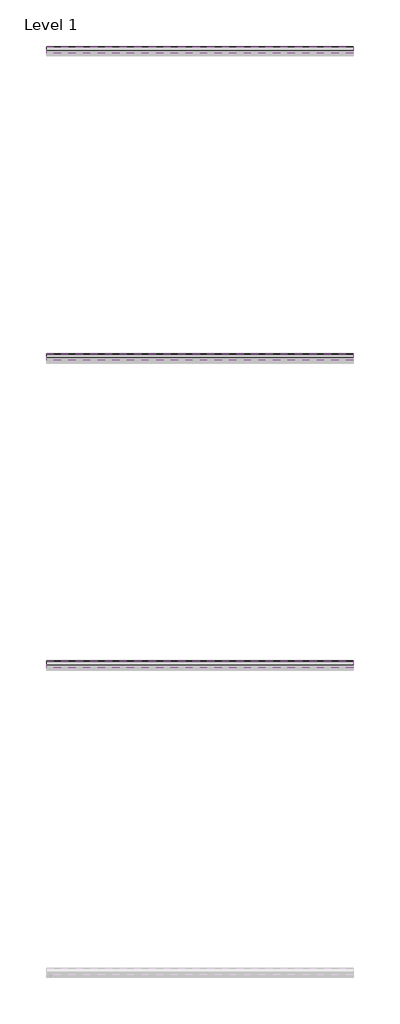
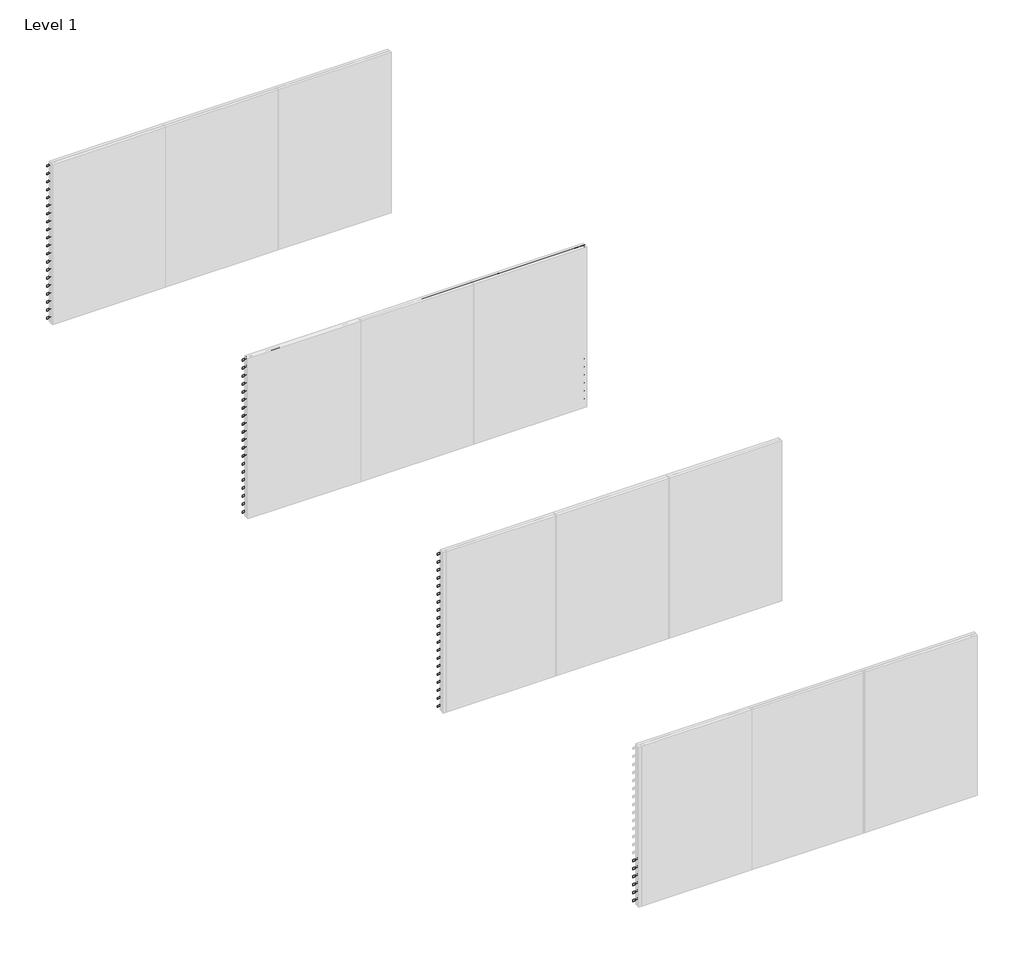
# One storey, part 2 of 2: 66 proxies.
"""IFC4 building model written with IfcOpenShell, lengths in millimetres."""

from ifc_helpers import new_model, si_unit, frame, origin, place, context, project, spatial, polyline, outline, extrude, element, save

model = new_model("IFC4")

# Units and contexts
model_context = context("Model", 3, world=origin())
ifc_project = project(units=[si_unit("LENGTHUNIT", "METRE", prefix="MILLI")], contexts=[model_context])

# Site, building, storey
site = spatial("IfcSite", under=ifc_project)
building = spatial("IfcBuilding", under=site)
storey = spatial("IfcBuildingStorey", under=building, Name="Level 1", Elevation=0.0)

# Proxies
placement = place(None, origin())
element("IfcBuildingElementProxy", 1, Name="Wall Sweeps", at=placement, inside=storey, context=model_context, shape_type="SweptSolid", body=[
    extrude(outline(polyline([(-1995.0, 3000.0), (-1995.0, 2998.0), (-1867.0, 2880.0), (-1867.0, 2845.0), (-1997.0, 2964.84375), (-1997.0, 3000.0), (-1995.0, 3000.0)])), frame((0.0, 0.0, 0.0), z_axis=(1.0, 0.0, 0.0), x_axis=(0.0, 1.0, 0.0)), (0.0, 0.0, 1.0), 6000.0),
])
element("IfcBuildingElementProxy", 2, Name="Wall Sweeps", at=placement, inside=storey, context=model_context, shape_type="SweptSolid", body=[
    extrude(outline(polyline([(-1995.0, 2850.0), (-1995.0, 2848.0), (-1867.0, 2730.0), (-1867.0, 2695.0), (-1997.0, 2814.84375), (-1997.0, 2850.0), (-1995.0, 2850.0)])), frame((0.0, 0.0, 0.0), z_axis=(1.0, 0.0, 0.0), x_axis=(0.0, 1.0, 0.0)), (0.0, 0.0, 1.0), 6000.0),
])
element("IfcBuildingElementProxy", 3, Name="Wall Sweeps", at=placement, inside=storey, context=model_context, shape_type="SweptSolid", body=[
    extrude(outline(polyline([(-1995.0, 2700.0), (-1995.0, 2698.0), (-1867.0, 2580.0), (-1867.0, 2545.0), (-1997.0, 2664.84375), (-1997.0, 2700.0), (-1995.0, 2700.0)])), frame((0.0, 0.0, 0.0), z_axis=(1.0, 0.0, 0.0), x_axis=(0.0, 1.0, 0.0)), (0.0, 0.0, 1.0), 6000.0),
])
element("IfcBuildingElementProxy", 4, Name="Wall Sweeps", at=placement, inside=storey, context=model_context, shape_type="SweptSolid", body=[
    extrude(outline(polyline([(-1995.0, 2550.0), (-1995.0, 2548.0), (-1867.0, 2430.0), (-1867.0, 2395.0), (-1997.0, 2514.84375), (-1997.0, 2550.0), (-1995.0, 2550.0)])), frame((0.0, 0.0, 0.0), z_axis=(1.0, 0.0, 0.0), x_axis=(0.0, 1.0, 0.0)), (0.0, 0.0, 1.0), 6000.0),
])
element("IfcBuildingElementProxy", 5, Name="Wall Sweeps", at=placement, inside=storey, context=model_context, shape_type="SweptSolid", body=[
    extrude(outline(polyline([(-1995.0, 2400.0), (-1995.0, 2398.0), (-1867.0, 2280.0), (-1867.0, 2245.0), (-1997.0, 2364.84375), (-1997.0, 2400.0), (-1995.0, 2400.0)])), frame((0.0, 0.0, 0.0), z_axis=(1.0, 0.0, 0.0), x_axis=(0.0, 1.0, 0.0)), (0.0, 0.0, 1.0), 6000.0),
])
element("IfcBuildingElementProxy", 6, Name="Wall Sweeps", at=placement, inside=storey, context=model_context, shape_type="SweptSolid", body=[
    extrude(outline(polyline([(-1995.0, 2250.0), (-1995.0, 2248.0), (-1867.0, 2130.0), (-1867.0, 2095.0), (-1997.0, 2214.84375), (-1997.0, 2250.0), (-1995.0, 2250.0)])), frame((0.0, 0.0, 0.0), z_axis=(1.0, 0.0, 0.0), x_axis=(0.0, 1.0, 0.0)), (0.0, 0.0, 1.0), 6000.0),
])
element("IfcBuildingElementProxy", 7, Name="Wall Sweeps", at=placement, inside=storey, context=model_context, shape_type="SweptSolid", body=[
    extrude(outline(polyline([(-1995.0, 2100.0), (-1995.0, 2098.0), (-1867.0, 1980.0), (-1867.0, 1945.0), (-1997.0, 2064.84375), (-1997.0, 2100.0), (-1995.0, 2100.0)])), frame((0.0, 0.0, 0.0), z_axis=(1.0, 0.0, 0.0), x_axis=(0.0, 1.0, 0.0)), (0.0, 0.0, 1.0), 6000.0),
])
element("IfcBuildingElementProxy", 8, Name="Wall Sweeps", at=placement, inside=storey, context=model_context, shape_type="SweptSolid", body=[
    extrude(outline(polyline([(-1995.0, 1950.0), (-1995.0, 1948.0), (-1867.0, 1830.0), (-1867.0, 1795.0), (-1997.0, 1914.84375), (-1997.0, 1950.0), (-1995.0, 1950.0)])), frame((0.0, 0.0, 0.0), z_axis=(1.0, 0.0, 0.0), x_axis=(0.0, 1.0, 0.0)), (0.0, 0.0, 1.0), 6000.0),
])
element("IfcBuildingElementProxy", 9, Name="Wall Sweeps", at=placement, inside=storey, context=model_context, shape_type="SweptSolid", body=[
    extrude(outline(polyline([(-1995.0, 1800.0), (-1995.0, 1798.0), (-1867.0, 1680.0), (-1867.0, 1645.0), (-1997.0, 1764.84375), (-1997.0, 1800.0), (-1995.0, 1800.0)])), frame((0.0, 0.0, 0.0), z_axis=(1.0, 0.0, 0.0), x_axis=(0.0, 1.0, 0.0)), (0.0, 0.0, 1.0), 6000.0),
])
element("IfcBuildingElementProxy", 10, Name="Wall Sweeps", at=placement, inside=storey, context=model_context, shape_type="SweptSolid", body=[
    extrude(outline(polyline([(-1995.0, 1650.0), (-1995.0, 1648.0), (-1867.0, 1530.0), (-1867.0, 1495.0), (-1997.0, 1614.84375), (-1997.0, 1650.0), (-1995.0, 1650.0)])), frame((0.0, 0.0, 0.0), z_axis=(1.0, 0.0, 0.0), x_axis=(0.0, 1.0, 0.0)), (0.0, 0.0, 1.0), 6000.0),
])
element("IfcBuildingElementProxy", 11, Name="Wall Sweeps", at=placement, inside=storey, context=model_context, shape_type="SweptSolid", body=[
    extrude(outline(polyline([(-1995.0, 1500.0), (-1995.0, 1498.0), (-1867.0, 1380.0), (-1867.0, 1345.0), (-1997.0, 1464.84375), (-1997.0, 1500.0), (-1995.0, 1500.0)])), frame((0.0, 0.0, 0.0), z_axis=(1.0, 0.0, 0.0), x_axis=(0.0, 1.0, 0.0)), (0.0, 0.0, 1.0), 6000.0),
])
element("IfcBuildingElementProxy", 12, Name="Wall Sweeps", at=placement, inside=storey, context=model_context, shape_type="SweptSolid", body=[
    extrude(outline(polyline([(-1995.0, 1350.0), (-1995.0, 1348.0), (-1867.0, 1230.0), (-1867.0, 1195.0), (-1997.0, 1314.84375), (-1997.0, 1350.0), (-1995.0, 1350.0)])), frame((0.0, 0.0, 0.0), z_axis=(1.0, 0.0, 0.0), x_axis=(0.0, 1.0, 0.0)), (0.0, 0.0, 1.0), 6000.0),
])
element("IfcBuildingElementProxy", 13, Name="Wall Sweeps", at=placement, inside=storey, context=model_context, shape_type="SweptSolid", body=[
    extrude(outline(polyline([(-1995.0, 1200.0), (-1995.0, 1198.0), (-1867.0, 1080.0), (-1867.0, 1045.0), (-1997.0, 1164.84375), (-1997.0, 1200.0), (-1995.0, 1200.0)])), frame((0.0, 0.0, 0.0), z_axis=(1.0, 0.0, 0.0), x_axis=(0.0, 1.0, 0.0)), (0.0, 0.0, 1.0), 6000.0),
])
element("IfcBuildingElementProxy", 14, Name="Wall Sweeps", at=placement, inside=storey, context=model_context, shape_type="SweptSolid", body=[
    extrude(outline(polyline([(-1995.0, 1050.0), (-1995.0, 1048.0), (-1867.0, 930.0), (-1867.0, 895.0), (-1997.0, 1014.84375), (-1997.0, 1050.0), (-1995.0, 1050.0)])), frame((0.0, 0.0, 0.0), z_axis=(1.0, 0.0, 0.0), x_axis=(0.0, 1.0, 0.0)), (0.0, 0.0, 1.0), 6000.0),
])
element("IfcBuildingElementProxy", 15, Name="Wall Sweeps", at=placement, inside=storey, context=model_context, shape_type="SweptSolid", body=[
    extrude(outline(polyline([(-1995.0, 900.0), (-1995.0, 898.0), (-1867.0, 780.0), (-1867.0, 745.0), (-1997.0, 864.84375), (-1997.0, 900.0), (-1995.0, 900.0)])), frame((0.0, 0.0, 0.0), z_axis=(1.0, 0.0, 0.0), x_axis=(0.0, 1.0, 0.0)), (0.0, 0.0, 1.0), 6000.0),
])
element("IfcBuildingElementProxy", 16, Name="Wall Sweeps", at=placement, inside=storey, context=model_context, shape_type="SweptSolid", body=[
    extrude(outline(polyline([(-1995.0, 750.0), (-1995.0, 748.0), (-1867.0, 630.0), (-1867.0, 595.0), (-1997.0, 714.84375), (-1997.0, 750.0), (-1995.0, 750.0)])), frame((0.0, 0.0, 0.0), z_axis=(1.0, 0.0, 0.0), x_axis=(0.0, 1.0, 0.0)), (0.0, 0.0, 1.0), 6000.0),
])
element("IfcBuildingElementProxy", 17, Name="Wall Sweeps", at=placement, inside=storey, context=model_context, shape_type="SweptSolid", body=[
    extrude(outline(polyline([(-1995.0, 600.0), (-1995.0, 598.0), (-1867.0, 480.0), (-1867.0, 445.0), (-1997.0, 564.84375), (-1997.0, 600.0), (-1995.0, 600.0)])), frame((0.0, 0.0, 0.0), z_axis=(1.0, 0.0, 0.0), x_axis=(0.0, 1.0, 0.0)), (0.0, 0.0, 1.0), 6000.0),
])
element("IfcBuildingElementProxy", 18, Name="Wall Sweeps", at=placement, inside=storey, context=model_context, shape_type="SweptSolid", body=[
    extrude(outline(polyline([(-1995.0, 450.0), (-1995.0, 448.0), (-1867.0, 330.0), (-1867.0, 295.0), (-1997.0, 414.84375), (-1997.0, 450.0), (-1995.0, 450.0)])), frame((0.0, 0.0, 0.0), z_axis=(1.0, 0.0, 0.0), x_axis=(0.0, 1.0, 0.0)), (0.0, 0.0, 1.0), 6000.0),
])
element("IfcBuildingElementProxy", 19, Name="Wall Sweeps", at=placement, inside=storey, context=model_context, shape_type="SweptSolid", body=[
    extrude(outline(polyline([(-1995.0, 300.0), (-1995.0, 298.0), (-1867.0, 180.0), (-1867.0, 145.0), (-1997.0, 264.84375), (-1997.0, 300.0), (-1995.0, 300.0)])), frame((0.0, 0.0, 0.0), z_axis=(1.0, 0.0, 0.0), x_axis=(0.0, 1.0, 0.0)), (0.0, 0.0, 1.0), 6000.0),
])
element("IfcBuildingElementProxy", 20, Name="Wall Sweeps", at=placement, inside=storey, context=model_context, shape_type="SweptSolid", body=[
    extrude(outline(polyline([(-1995.0, 150.0), (-1995.0, 148.0), (-1867.0, 30.0), (-1867.0, -5.0), (-1997.0, 114.84375), (-1997.0, 150.0), (-1995.0, 150.0)])), frame((0.0, 0.0, 0.0), z_axis=(1.0, 0.0, 0.0), x_axis=(0.0, 1.0, 0.0)), (0.0, 0.0, 1.0), 6000.0),
])
element("IfcBuildingElementProxy", 21, Name="Wall Sweeps", at=placement, inside=storey, context=model_context, shape_type="SweptSolid", body=[
    extrude(outline(polyline([(-7995.0, 3000.0), (-7995.0, 2998.0), (-7867.0, 2880.0), (-7867.0, 2845.0), (-7997.0, 2964.84375), (-7997.0, 3000.0), (-7995.0, 3000.0)])), frame((0.0, 0.0, 0.0), z_axis=(1.0, 0.0, 0.0), x_axis=(0.0, 1.0, 0.0)), (0.0, 0.0, 1.0), 6000.0),
])
element("IfcBuildingElementProxy", 22, Name="Wall Sweeps", at=placement, inside=storey, context=model_context, shape_type="SweptSolid", body=[
    extrude(outline(polyline([(-7995.0, 2850.0), (-7995.0, 2848.0), (-7867.0, 2730.0), (-7867.0, 2695.0), (-7997.0, 2814.84375), (-7997.0, 2850.0), (-7995.0, 2850.0)])), frame((0.0, 0.0, 0.0), z_axis=(1.0, 0.0, 0.0), x_axis=(0.0, 1.0, 0.0)), (0.0, 0.0, 1.0), 6000.0),
])
element("IfcBuildingElementProxy", 23, Name="Wall Sweeps", at=placement, inside=storey, context=model_context, shape_type="SweptSolid", body=[
    extrude(outline(polyline([(-7995.0, 2700.0), (-7995.0, 2698.0), (-7867.0, 2580.0), (-7867.0, 2545.0), (-7997.0, 2664.84375), (-7997.0, 2700.0), (-7995.0, 2700.0)])), frame((0.0, 0.0, 0.0), z_axis=(1.0, 0.0, 0.0), x_axis=(0.0, 1.0, 0.0)), (0.0, 0.0, 1.0), 6000.0),
])
element("IfcBuildingElementProxy", 24, Name="Wall Sweeps", at=placement, inside=storey, context=model_context, shape_type="SweptSolid", body=[
    extrude(outline(polyline([(-7995.0, 2550.0), (-7995.0, 2548.0), (-7867.0, 2430.0), (-7867.0, 2395.0), (-7997.0, 2514.84375), (-7997.0, 2550.0), (-7995.0, 2550.0)])), frame((0.0, 0.0, 0.0), z_axis=(1.0, 0.0, 0.0), x_axis=(0.0, 1.0, 0.0)), (0.0, 0.0, 1.0), 6000.0),
])
element("IfcBuildingElementProxy", 25, Name="Wall Sweeps", at=placement, inside=storey, context=model_context, shape_type="SweptSolid", body=[
    extrude(outline(polyline([(-7995.0, 2400.0), (-7995.0, 2398.0), (-7867.0, 2280.0), (-7867.0, 2245.0), (-7997.0, 2364.84375), (-7997.0, 2400.0), (-7995.0, 2400.0)])), frame((0.0, 0.0, 0.0), z_axis=(1.0, 0.0, 0.0), x_axis=(0.0, 1.0, 0.0)), (0.0, 0.0, 1.0), 6000.0),
])
element("IfcBuildingElementProxy", 26, Name="Wall Sweeps", at=placement, inside=storey, context=model_context, shape_type="SweptSolid", body=[
    extrude(outline(polyline([(-7995.0, 2250.0), (-7995.0, 2248.0), (-7867.0, 2130.0), (-7867.0, 2095.0), (-7997.0, 2214.84375), (-7997.0, 2250.0), (-7995.0, 2250.0)])), frame((0.0, 0.0, 0.0), z_axis=(1.0, 0.0, 0.0), x_axis=(0.0, 1.0, 0.0)), (0.0, 0.0, 1.0), 6000.0),
])
element("IfcBuildingElementProxy", 27, Name="Wall Sweeps", at=placement, inside=storey, context=model_context, shape_type="SweptSolid", body=[
    extrude(outline(polyline([(-7995.0, 2100.0), (-7995.0, 2098.0), (-7867.0, 1980.0), (-7867.0, 1945.0), (-7997.0, 2064.84375), (-7997.0, 2100.0), (-7995.0, 2100.0)])), frame((0.0, 0.0, 0.0), z_axis=(1.0, 0.0, 0.0), x_axis=(0.0, 1.0, 0.0)), (0.0, 0.0, 1.0), 6000.0),
])
element("IfcBuildingElementProxy", 28, Name="Wall Sweeps", at=placement, inside=storey, context=model_context, shape_type="SweptSolid", body=[
    extrude(outline(polyline([(-7995.0, 1950.0), (-7995.0, 1948.0), (-7867.0, 1830.0), (-7867.0, 1795.0), (-7997.0, 1914.84375), (-7997.0, 1950.0), (-7995.0, 1950.0)])), frame((0.0, 0.0, 0.0), z_axis=(1.0, 0.0, 0.0), x_axis=(0.0, 1.0, 0.0)), (0.0, 0.0, 1.0), 6000.0),
])
element("IfcBuildingElementProxy", 29, Name="Wall Sweeps", at=placement, inside=storey, context=model_context, shape_type="SweptSolid", body=[
    extrude(outline(polyline([(-7995.0, 1800.0), (-7995.0, 1798.0), (-7867.0, 1680.0), (-7867.0, 1645.0), (-7997.0, 1764.84375), (-7997.0, 1800.0), (-7995.0, 1800.0)])), frame((0.0, 0.0, 0.0), z_axis=(1.0, 0.0, 0.0), x_axis=(0.0, 1.0, 0.0)), (0.0, 0.0, 1.0), 6000.0),
])
element("IfcBuildingElementProxy", 30, Name="Wall Sweeps", at=placement, inside=storey, context=model_context, shape_type="SweptSolid", body=[
    extrude(outline(polyline([(-7995.0, 1650.0), (-7995.0, 1648.0), (-7867.0, 1530.0), (-7867.0, 1495.0), (-7997.0, 1614.84375), (-7997.0, 1650.0), (-7995.0, 1650.0)])), frame((0.0, 0.0, 0.0), z_axis=(1.0, 0.0, 0.0), x_axis=(0.0, 1.0, 0.0)), (0.0, 0.0, 1.0), 6000.0),
])
element("IfcBuildingElementProxy", 31, Name="Wall Sweeps", at=placement, inside=storey, context=model_context, shape_type="SweptSolid", body=[
    extrude(outline(polyline([(-7995.0, 1500.0), (-7995.0, 1498.0), (-7867.0, 1380.0), (-7867.0, 1345.0), (-7997.0, 1464.84375), (-7997.0, 1500.0), (-7995.0, 1500.0)])), frame((0.0, 0.0, 0.0), z_axis=(1.0, 0.0, 0.0), x_axis=(0.0, 1.0, 0.0)), (0.0, 0.0, 1.0), 6000.0),
])
element("IfcBuildingElementProxy", 32, Name="Wall Sweeps", at=placement, inside=storey, context=model_context, shape_type="SweptSolid", body=[
    extrude(outline(polyline([(-7995.0, 1350.0), (-7995.0, 1348.0), (-7867.0, 1230.0), (-7867.0, 1195.0), (-7997.0, 1314.84375), (-7997.0, 1350.0), (-7995.0, 1350.0)])), frame((0.0, 0.0, 0.0), z_axis=(1.0, 0.0, 0.0), x_axis=(0.0, 1.0, 0.0)), (0.0, 0.0, 1.0), 6000.0),
])
element("IfcBuildingElementProxy", 33, Name="Wall Sweeps", at=placement, inside=storey, context=model_context, shape_type="SweptSolid", body=[
    extrude(outline(polyline([(-7995.0, 1200.0), (-7995.0, 1198.0), (-7867.0, 1080.0), (-7867.0, 1045.0), (-7997.0, 1164.84375), (-7997.0, 1200.0), (-7995.0, 1200.0)])), frame((0.0, 0.0, 0.0), z_axis=(1.0, 0.0, 0.0), x_axis=(0.0, 1.0, 0.0)), (0.0, 0.0, 1.0), 6000.0),
])
element("IfcBuildingElementProxy", 34, Name="Wall Sweeps", at=placement, inside=storey, context=model_context, shape_type="SweptSolid", body=[
    extrude(outline(polyline([(-7995.0, 1050.0), (-7995.0, 1048.0), (-7867.0, 930.0), (-7867.0, 895.0), (-7997.0, 1014.84375), (-7997.0, 1050.0), (-7995.0, 1050.0)])), frame((0.0, 0.0, 0.0), z_axis=(1.0, 0.0, 0.0), x_axis=(0.0, 1.0, 0.0)), (0.0, 0.0, 1.0), 6000.0),
])
element("IfcBuildingElementProxy", 35, Name="Wall Sweeps", at=placement, inside=storey, context=model_context, shape_type="SweptSolid", body=[
    extrude(outline(polyline([(-7995.0, 900.0), (-7995.0, 898.0), (-7867.0, 780.0), (-7867.0, 745.0), (-7997.0, 864.84375), (-7997.0, 900.0), (-7995.0, 900.0)])), frame((0.0, 0.0, 0.0), z_axis=(1.0, 0.0, 0.0), x_axis=(0.0, 1.0, 0.0)), (0.0, 0.0, 1.0), 6000.0),
])
element("IfcBuildingElementProxy", 36, Name="Wall Sweeps", at=placement, inside=storey, context=model_context, shape_type="SweptSolid", body=[
    extrude(outline(polyline([(-7995.0, 750.0), (-7995.0, 748.0), (-7867.0, 630.0), (-7867.0, 595.0), (-7997.0, 714.84375), (-7997.0, 750.0), (-7995.0, 750.0)])), frame((0.0, 0.0, 0.0), z_axis=(1.0, 0.0, 0.0), x_axis=(0.0, 1.0, 0.0)), (0.0, 0.0, 1.0), 6000.0),
])
element("IfcBuildingElementProxy", 37, Name="Wall Sweeps", at=placement, inside=storey, context=model_context, shape_type="SweptSolid", body=[
    extrude(outline(polyline([(-7995.0, 600.0), (-7995.0, 598.0), (-7867.0, 480.0), (-7867.0, 445.0), (-7997.0, 564.84375), (-7997.0, 600.0), (-7995.0, 600.0)])), frame((0.0, 0.0, 0.0), z_axis=(1.0, 0.0, 0.0), x_axis=(0.0, 1.0, 0.0)), (0.0, 0.0, 1.0), 6000.0),
])
element("IfcBuildingElementProxy", 38, Name="Wall Sweeps", at=placement, inside=storey, context=model_context, shape_type="SweptSolid", body=[
    extrude(outline(polyline([(-7995.0, 450.0), (-7995.0, 448.0), (-7867.0, 330.0), (-7867.0, 295.0), (-7997.0, 414.84375), (-7997.0, 450.0), (-7995.0, 450.0)])), frame((0.0, 0.0, 0.0), z_axis=(1.0, 0.0, 0.0), x_axis=(0.0, 1.0, 0.0)), (0.0, 0.0, 1.0), 6000.0),
])
element("IfcBuildingElementProxy", 39, Name="Wall Sweeps", at=placement, inside=storey, context=model_context, shape_type="SweptSolid", body=[
    extrude(outline(polyline([(-7995.0, 300.0), (-7995.0, 298.0), (-7867.0, 180.0), (-7867.0, 145.0), (-7997.0, 264.84375), (-7997.0, 300.0), (-7995.0, 300.0)])), frame((0.0, 0.0, 0.0), z_axis=(1.0, 0.0, 0.0), x_axis=(0.0, 1.0, 0.0)), (0.0, 0.0, 1.0), 6000.0),
])
element("IfcBuildingElementProxy", 40, Name="Wall Sweeps", at=placement, inside=storey, context=model_context, shape_type="SweptSolid", body=[
    extrude(outline(polyline([(-7995.0, 150.0), (-7995.0, 148.0), (-7867.0, 30.0), (-7867.0, -5.0), (-7997.0, 114.84375), (-7997.0, 150.0), (-7995.0, 150.0)])), frame((0.0, 0.0, 0.0), z_axis=(1.0, 0.0, 0.0), x_axis=(0.0, 1.0, 0.0)), (0.0, 0.0, 1.0), 6000.0),
])
element("IfcBuildingElementProxy", 41, Name="Wall Sweeps", at=placement, inside=storey, context=model_context, shape_type="SweptSolid", body=[
    extrude(outline(polyline([(-13995.0, 3000.0), (-13995.0, 2998.0), (-13867.0, 2880.0), (-13867.0, 2845.0), (-13997.0, 2964.84375), (-13997.0, 3000.0), (-13995.0, 3000.0)])), frame((0.0, 0.0, 0.0), z_axis=(1.0, 0.0, 0.0), x_axis=(0.0, 1.0, 0.0)), (0.0, 0.0, 1.0), 6000.0),
])
element("IfcBuildingElementProxy", 42, Name="Wall Sweeps", at=placement, inside=storey, context=model_context, shape_type="SweptSolid", body=[
    extrude(outline(polyline([(-13995.0, 2850.0), (-13995.0, 2848.0), (-13867.0, 2730.0), (-13867.0, 2695.0), (-13997.0, 2814.84375), (-13997.0, 2850.0), (-13995.0, 2850.0)])), frame((0.0, 0.0, 0.0), z_axis=(1.0, 0.0, 0.0), x_axis=(0.0, 1.0, 0.0)), (0.0, 0.0, 1.0), 6000.0),
])
element("IfcBuildingElementProxy", 43, Name="Wall Sweeps", at=placement, inside=storey, context=model_context, shape_type="SweptSolid", body=[
    extrude(outline(polyline([(-13995.0, 2700.0), (-13995.0, 2698.0), (-13867.0, 2580.0), (-13867.0, 2545.0), (-13997.0, 2664.84375), (-13997.0, 2700.0), (-13995.0, 2700.0)])), frame((0.0, 0.0, 0.0), z_axis=(1.0, 0.0, 0.0), x_axis=(0.0, 1.0, 0.0)), (0.0, 0.0, 1.0), 6000.0),
])
element("IfcBuildingElementProxy", 44, Name="Wall Sweeps", at=placement, inside=storey, context=model_context, shape_type="SweptSolid", body=[
    extrude(outline(polyline([(-13995.0, 2550.0), (-13995.0, 2548.0), (-13867.0, 2430.0), (-13867.0, 2395.0), (-13997.0, 2514.84375), (-13997.0, 2550.0), (-13995.0, 2550.0)])), frame((0.0, 0.0, 0.0), z_axis=(1.0, 0.0, 0.0), x_axis=(0.0, 1.0, 0.0)), (0.0, 0.0, 1.0), 6000.0),
])
element("IfcBuildingElementProxy", 45, Name="Wall Sweeps", at=placement, inside=storey, context=model_context, shape_type="SweptSolid", body=[
    extrude(outline(polyline([(-13995.0, 2400.0), (-13995.0, 2398.0), (-13867.0, 2280.0), (-13867.0, 2245.0), (-13997.0, 2364.84375), (-13997.0, 2400.0), (-13995.0, 2400.0)])), frame((0.0, 0.0, 0.0), z_axis=(1.0, 0.0, 0.0), x_axis=(0.0, 1.0, 0.0)), (0.0, 0.0, 1.0), 6000.0),
])
element("IfcBuildingElementProxy", 46, Name="Wall Sweeps", at=placement, inside=storey, context=model_context, shape_type="SweptSolid", body=[
    extrude(outline(polyline([(-13995.0, 2250.0), (-13995.0, 2248.0), (-13867.0, 2130.0), (-13867.0, 2095.0), (-13997.0, 2214.84375), (-13997.0, 2250.0), (-13995.0, 2250.0)])), frame((0.0, 0.0, 0.0), z_axis=(1.0, 0.0, 0.0), x_axis=(0.0, 1.0, 0.0)), (0.0, 0.0, 1.0), 6000.0),
])
element("IfcBuildingElementProxy", 47, Name="Wall Sweeps", at=placement, inside=storey, context=model_context, shape_type="SweptSolid", body=[
    extrude(outline(polyline([(-13995.0, 2100.0), (-13995.0, 2098.0), (-13867.0, 1980.0), (-13867.0, 1945.0), (-13997.0, 2064.84375), (-13997.0, 2100.0), (-13995.0, 2100.0)])), frame((0.0, 0.0, 0.0), z_axis=(1.0, 0.0, 0.0), x_axis=(0.0, 1.0, 0.0)), (0.0, 0.0, 1.0), 6000.0),
])
element("IfcBuildingElementProxy", 48, Name="Wall Sweeps", at=placement, inside=storey, context=model_context, shape_type="SweptSolid", body=[
    extrude(outline(polyline([(-13995.0, 1950.0), (-13995.0, 1948.0), (-13867.0, 1830.0), (-13867.0, 1795.0), (-13997.0, 1914.84375), (-13997.0, 1950.0), (-13995.0, 1950.0)])), frame((0.0, 0.0, 0.0), z_axis=(1.0, 0.0, 0.0), x_axis=(0.0, 1.0, 0.0)), (0.0, 0.0, 1.0), 6000.0),
])
element("IfcBuildingElementProxy", 49, Name="Wall Sweeps", at=placement, inside=storey, context=model_context, shape_type="SweptSolid", body=[
    extrude(outline(polyline([(-13995.0, 1800.0), (-13995.0, 1798.0), (-13867.0, 1680.0), (-13867.0, 1645.0), (-13997.0, 1764.84375), (-13997.0, 1800.0), (-13995.0, 1800.0)])), frame((0.0, 0.0, 0.0), z_axis=(1.0, 0.0, 0.0), x_axis=(0.0, 1.0, 0.0)), (0.0, 0.0, 1.0), 6000.0),
])
element("IfcBuildingElementProxy", 50, Name="Wall Sweeps", at=placement, inside=storey, context=model_context, shape_type="SweptSolid", body=[
    extrude(outline(polyline([(-13995.0, 1650.0), (-13995.0, 1648.0), (-13867.0, 1530.0), (-13867.0, 1495.0), (-13997.0, 1614.84375), (-13997.0, 1650.0), (-13995.0, 1650.0)])), frame((0.0, 0.0, 0.0), z_axis=(1.0, 0.0, 0.0), x_axis=(0.0, 1.0, 0.0)), (0.0, 0.0, 1.0), 6000.0),
])
element("IfcBuildingElementProxy", 51, Name="Wall Sweeps", at=placement, inside=storey, context=model_context, shape_type="SweptSolid", body=[
    extrude(outline(polyline([(-13995.0, 1500.0), (-13995.0, 1498.0), (-13867.0, 1380.0), (-13867.0, 1345.0), (-13997.0, 1464.84375), (-13997.0, 1500.0), (-13995.0, 1500.0)])), frame((0.0, 0.0, 0.0), z_axis=(1.0, 0.0, 0.0), x_axis=(0.0, 1.0, 0.0)), (0.0, 0.0, 1.0), 6000.0),
])
element("IfcBuildingElementProxy", 52, Name="Wall Sweeps", at=placement, inside=storey, context=model_context, shape_type="SweptSolid", body=[
    extrude(outline(polyline([(-13995.0, 1350.0), (-13995.0, 1348.0), (-13867.0, 1230.0), (-13867.0, 1195.0), (-13997.0, 1314.84375), (-13997.0, 1350.0), (-13995.0, 1350.0)])), frame((0.0, 0.0, 0.0), z_axis=(1.0, 0.0, 0.0), x_axis=(0.0, 1.0, 0.0)), (0.0, 0.0, 1.0), 6000.0),
])
element("IfcBuildingElementProxy", 53, Name="Wall Sweeps", at=placement, inside=storey, context=model_context, shape_type="SweptSolid", body=[
    extrude(outline(polyline([(-13995.0, 1200.0), (-13995.0, 1198.0), (-13867.0, 1080.0), (-13867.0, 1045.0), (-13997.0, 1164.84375), (-13997.0, 1200.0), (-13995.0, 1200.0)])), frame((0.0, 0.0, 0.0), z_axis=(1.0, 0.0, 0.0), x_axis=(0.0, 1.0, 0.0)), (0.0, 0.0, 1.0), 6000.0),
])
element("IfcBuildingElementProxy", 54, Name="Wall Sweeps", at=placement, inside=storey, context=model_context, shape_type="SweptSolid", body=[
    extrude(outline(polyline([(-13995.0, 1050.0), (-13995.0, 1048.0), (-13867.0, 930.0), (-13867.0, 895.0), (-13997.0, 1014.84375), (-13997.0, 1050.0), (-13995.0, 1050.0)])), frame((0.0, 0.0, 0.0), z_axis=(1.0, 0.0, 0.0), x_axis=(0.0, 1.0, 0.0)), (0.0, 0.0, 1.0), 6000.0),
])
element("IfcBuildingElementProxy", 55, Name="Wall Sweeps", at=placement, inside=storey, context=model_context, shape_type="SweptSolid", body=[
    extrude(outline(polyline([(-13995.0, 900.0), (-13995.0, 898.0), (-13867.0, 780.0), (-13867.0, 745.0), (-13997.0, 864.84375), (-13997.0, 900.0), (-13995.0, 900.0)])), frame((0.0, 0.0, 0.0), z_axis=(1.0, 0.0, 0.0), x_axis=(0.0, 1.0, 0.0)), (0.0, 0.0, 1.0), 6000.0),
])
element("IfcBuildingElementProxy", 56, Name="Wall Sweeps", at=placement, inside=storey, context=model_context, shape_type="SweptSolid", body=[
    extrude(outline(polyline([(-13995.0, 750.0), (-13995.0, 748.0), (-13867.0, 630.0), (-13867.0, 595.0), (-13997.0, 714.84375), (-13997.0, 750.0), (-13995.0, 750.0)])), frame((0.0, 0.0, 0.0), z_axis=(1.0, 0.0, 0.0), x_axis=(0.0, 1.0, 0.0)), (0.0, 0.0, 1.0), 6000.0),
])
element("IfcBuildingElementProxy", 57, Name="Wall Sweeps", at=placement, inside=storey, context=model_context, shape_type="SweptSolid", body=[
    extrude(outline(polyline([(-13995.0, 600.0), (-13995.0, 598.0), (-13867.0, 480.0), (-13867.0, 445.0), (-13997.0, 564.84375), (-13997.0, 600.0), (-13995.0, 600.0)])), frame((0.0, 0.0, 0.0), z_axis=(1.0, 0.0, 0.0), x_axis=(0.0, 1.0, 0.0)), (0.0, 0.0, 1.0), 6000.0),
])
element("IfcBuildingElementProxy", 58, Name="Wall Sweeps", at=placement, inside=storey, context=model_context, shape_type="SweptSolid", body=[
    extrude(outline(polyline([(-13995.0, 450.0), (-13995.0, 448.0), (-13867.0, 330.0), (-13867.0, 295.0), (-13997.0, 414.84375), (-13997.0, 450.0), (-13995.0, 450.0)])), frame((0.0, 0.0, 0.0), z_axis=(1.0, 0.0, 0.0), x_axis=(0.0, 1.0, 0.0)), (0.0, 0.0, 1.0), 6000.0),
])
element("IfcBuildingElementProxy", 59, Name="Wall Sweeps", at=placement, inside=storey, context=model_context, shape_type="SweptSolid", body=[
    extrude(outline(polyline([(-13995.0, 300.0), (-13995.0, 298.0), (-13867.0, 180.0), (-13867.0, 145.0), (-13997.0, 264.84375), (-13997.0, 300.0), (-13995.0, 300.0)])), frame((0.0, 0.0, 0.0), z_axis=(1.0, 0.0, 0.0), x_axis=(0.0, 1.0, 0.0)), (0.0, 0.0, 1.0), 6000.0),
])
element("IfcBuildingElementProxy", 60, Name="Wall Sweeps", at=placement, inside=storey, context=model_context, shape_type="SweptSolid", body=[
    extrude(outline(polyline([(-13995.0, 150.0), (-13995.0, 148.0), (-13867.0, 30.0), (-13867.0, -5.0), (-13997.0, 114.84375), (-13997.0, 150.0), (-13995.0, 150.0)])), frame((0.0, 0.0, 0.0), z_axis=(1.0, 0.0, 0.0), x_axis=(0.0, 1.0, 0.0)), (0.0, 0.0, 1.0), 6000.0),
])
element("IfcBuildingElementProxy", 61, Name="Wall Sweeps", at=placement, inside=storey, context=model_context, shape_type="SweptSolid", body=[
    extrude(outline(polyline([(-19995.0, 900.0), (-19995.0, 898.0), (-19867.0, 780.0), (-19867.0, 745.0), (-19997.0, 864.84375), (-19997.0, 900.0), (-19995.0, 900.0)])), frame((0.0, 0.0, 0.0), z_axis=(1.0, 0.0, 0.0), x_axis=(0.0, 1.0, 0.0)), (0.0, 0.0, 1.0), 6000.0),
])
element("IfcBuildingElementProxy", 62, Name="Wall Sweeps", at=placement, inside=storey, context=model_context, shape_type="SweptSolid", body=[
    extrude(outline(polyline([(-19995.0, 750.0), (-19995.0, 748.0), (-19867.0, 630.0), (-19867.0, 595.0), (-19997.0, 714.84375), (-19997.0, 750.0), (-19995.0, 750.0)])), frame((0.0, 0.0, 0.0), z_axis=(1.0, 0.0, 0.0), x_axis=(0.0, 1.0, 0.0)), (0.0, 0.0, 1.0), 6000.0),
])
element("IfcBuildingElementProxy", 63, Name="Wall Sweeps", at=placement, inside=storey, context=model_context, shape_type="SweptSolid", body=[
    extrude(outline(polyline([(-19995.0, 600.0), (-19995.0, 598.0), (-19867.0, 480.0), (-19867.0, 445.0), (-19997.0, 564.84375), (-19997.0, 600.0), (-19995.0, 600.0)])), frame((0.0, 0.0, 0.0), z_axis=(1.0, 0.0, 0.0), x_axis=(0.0, 1.0, 0.0)), (0.0, 0.0, 1.0), 6000.0),
])
element("IfcBuildingElementProxy", 64, Name="Wall Sweeps", at=placement, inside=storey, context=model_context, shape_type="SweptSolid", body=[
    extrude(outline(polyline([(-19995.0, 450.0), (-19995.0, 448.0), (-19867.0, 330.0), (-19867.0, 295.0), (-19997.0, 414.84375), (-19997.0, 450.0), (-19995.0, 450.0)])), frame((0.0, 0.0, 0.0), z_axis=(1.0, 0.0, 0.0), x_axis=(0.0, 1.0, 0.0)), (0.0, 0.0, 1.0), 6000.0),
])
element("IfcBuildingElementProxy", 65, Name="Wall Sweeps", at=placement, inside=storey, context=model_context, shape_type="SweptSolid", body=[
    extrude(outline(polyline([(-19995.0, 300.0), (-19995.0, 298.0), (-19867.0, 180.0), (-19867.0, 145.0), (-19997.0, 264.84375), (-19997.0, 300.0), (-19995.0, 300.0)])), frame((0.0, 0.0, 0.0), z_axis=(1.0, 0.0, 0.0), x_axis=(0.0, 1.0, 0.0)), (0.0, 0.0, 1.0), 6000.0),
])
element("IfcBuildingElementProxy", 66, Name="Wall Sweeps", at=placement, inside=storey, context=model_context, shape_type="SweptSolid", body=[
    extrude(outline(polyline([(-19995.0, 150.0), (-19995.0, 148.0), (-19867.0, 30.0), (-19867.0, -5.0), (-19997.0, 114.84375), (-19997.0, 150.0), (-19995.0, 150.0)])), frame((0.0, 0.0, 0.0), z_axis=(1.0, 0.0, 0.0), x_axis=(0.0, 1.0, 0.0)), (0.0, 0.0, 1.0), 6000.0),
])

save(model, "model.ifc")
